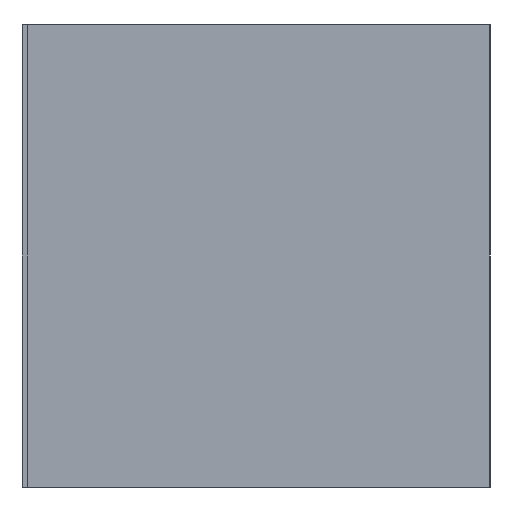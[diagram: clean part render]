
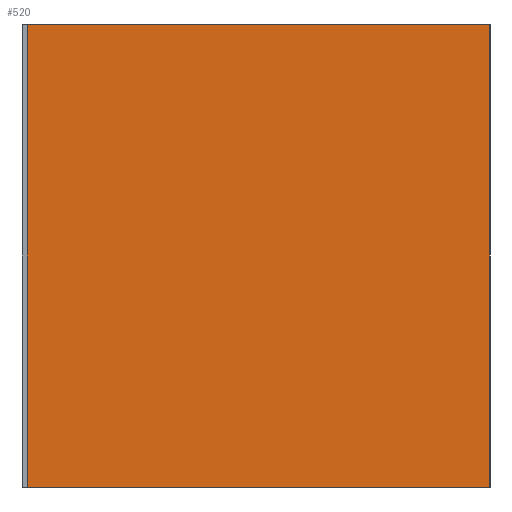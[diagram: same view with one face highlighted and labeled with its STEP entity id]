
A CAD part, left-side view. The second image highlights one B-rep face of the part: STEP entity #520.
In plain terms, the highlighted planar face has unit normal (-1, 0, 0).
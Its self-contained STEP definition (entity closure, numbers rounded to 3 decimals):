
#54=DIRECTION('',(0.,-1.,0.));
#55=VECTOR('',#54,700.);
#56=CARTESIAN_POINT('',(-450.,300.,-350.));
#57=LINE('',#56,#55);
#102=DIRECTION('',(0.,-1.,0.));
#103=VECTOR('',#102,700.);
#104=CARTESIAN_POINT('',(-450.,300.,350.));
#105=LINE('',#104,#103);
#106=DIRECTION('',(0.,0.,-1.));
#107=VECTOR('',#106,700.);
#108=CARTESIAN_POINT('',(-450.,-400.,350.));
#109=LINE('',#108,#107);
#110=DIRECTION('',(0.,0.,1.));
#111=VECTOR('',#110,700.);
#112=CARTESIAN_POINT('',(-450.,300.,-350.));
#113=LINE('',#112,#111);
#307=CARTESIAN_POINT('',(-450.,300.,-350.));
#309=VERTEX_POINT('',#307);
#311=CARTESIAN_POINT('',(-450.,300.,350.));
#313=VERTEX_POINT('',#311);
#367=CARTESIAN_POINT('',(-450.,-400.,350.));
#369=VERTEX_POINT('',#367);
#375=CARTESIAN_POINT('',(-450.,-400.,-350.));
#377=VERTEX_POINT('',#375);
#507=CARTESIAN_POINT('',(-450.,300.,-350.));
#508=DIRECTION('',(-1.,0.,0.));
#509=DIRECTION('',(0.,-1.,0.));
#510=AXIS2_PLACEMENT_3D('',#507,#508,#509);
#511=PLANE('',#510);
#512=ORIENTED_EDGE('',*,*,#433,.T.);
#514=ORIENTED_EDGE('',*,*,#513,.T.);
#515=ORIENTED_EDGE('',*,*,#483,.F.);
#517=ORIENTED_EDGE('',*,*,#516,.T.);
#518=EDGE_LOOP('',(#512,#514,#515,#517));
#519=FACE_OUTER_BOUND('',#518,.F.);
#433=EDGE_CURVE('',#313,#369,#105,.T.);
#483=EDGE_CURVE('',#309,#377,#57,.T.);
#513=EDGE_CURVE('',#369,#377,#109,.T.);
#516=EDGE_CURVE('',#309,#313,#113,.T.);
#520=ADVANCED_FACE('',(#519),#511,.T.);
